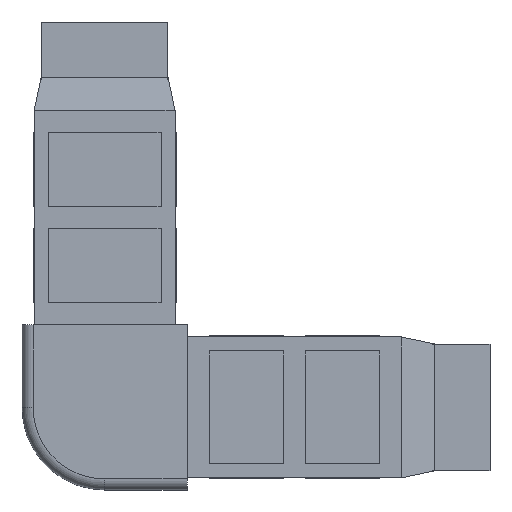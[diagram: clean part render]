
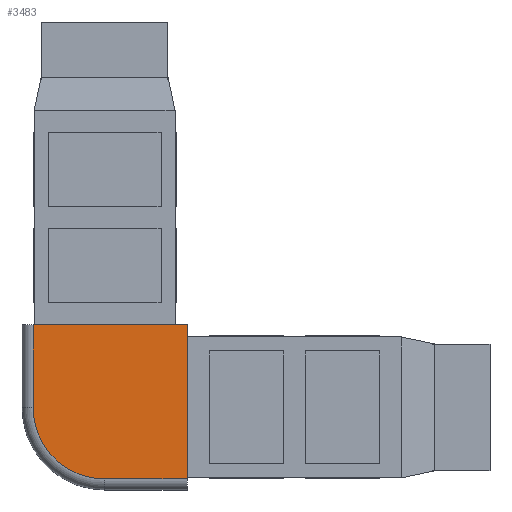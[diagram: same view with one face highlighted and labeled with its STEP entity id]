
A CAD part, left-side view. The second image highlights one B-rep face of the part: STEP entity #3483.
In plain terms, the highlighted planar face has unit normal (-1, 0, 0).
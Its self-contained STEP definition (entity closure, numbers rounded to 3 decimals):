
#73 = DIRECTION ( 'NONE',  ( 0., -1., 0. ) ) ;
#290 = EDGE_CURVE ( 'NONE', #1426, #1380, #1104, .T. ) ;
#402 = AXIS2_PLACEMENT_3D ( 'NONE', #661, #2796, #965 ) ;
#596 = CIRCLE ( 'NONE', #402, 13. ) ;
#661 = CARTESIAN_POINT ( 'NONE',  ( -15., 0., 0. ) ) ;
#775 = CARTESIAN_POINT ( 'NONE',  ( -15., 13., 15. ) ) ;
#905 = VERTEX_POINT ( 'NONE', #1385 ) ;
#937 = CARTESIAN_POINT ( 'NONE',  ( -15., -15., 15. ) ) ;
#965 = DIRECTION ( 'NONE',  ( 0., 1., 0. ) ) ;
#999 = CARTESIAN_POINT ( 'NONE',  ( -15., 13., 0. ) ) ;
#1001 = DIRECTION ( 'NONE',  ( 0., 1., 0. ) ) ;
#1065 = VECTOR ( 'NONE', #3535, 1000. ) ;
#1079 = VERTEX_POINT ( 'NONE', #1191 ) ;
#1104 = LINE ( 'NONE', #1878, #2633 ) ;
#1191 = CARTESIAN_POINT ( 'NONE',  ( -15., 0., -13. ) ) ;
#1244 = DIRECTION ( 'NONE',  ( 0., 0., -1. ) ) ;
#1380 = VERTEX_POINT ( 'NONE', #2688 ) ;
#1385 = CARTESIAN_POINT ( 'NONE',  ( -15., -15., -13. ) ) ;
#1426 = VERTEX_POINT ( 'NONE', #1666 ) ;
#1473 = ORIENTED_EDGE ( 'NONE', *, *, #1968, .F. ) ;
#1536 = AXIS2_PLACEMENT_3D ( 'NONE', #1908, #2838, #1001 ) ;
#1557 = EDGE_CURVE ( 'NONE', #1079, #905, #1987, .T. ) ;
#1595 = LINE ( 'NONE', #937, #3127 ) ;
#1646 = VERTEX_POINT ( 'NONE', #999 ) ;
#1658 = ORIENTED_EDGE ( 'NONE', *, *, #1557, .T. ) ;
#1666 = CARTESIAN_POINT ( 'NONE',  ( -15., 13., 15. ) ) ;
#1878 = CARTESIAN_POINT ( 'NONE',  ( -15., 15., 15. ) ) ;
#1908 = CARTESIAN_POINT ( 'NONE',  ( -15., 15., 15. ) ) ;
#1933 = ORIENTED_EDGE ( 'NONE', *, *, #290, .F. ) ;
#1967 = LINE ( 'NONE', #775, #1065 ) ;
#1968 = EDGE_CURVE ( 'NONE', #1380, #905, #1595, .T. ) ;
#1987 = LINE ( 'NONE', #3055, #3428 ) ;
#2044 = EDGE_CURVE ( 'NONE', #1646, #1079, #596, .T. ) ;
#2288 = EDGE_LOOP ( 'NONE', ( #1933, #3187, #3282, #1658, #1473 ) ) ;
#2327 = EDGE_CURVE ( 'NONE', #1426, #1646, #1967, .T. ) ;
#2633 = VECTOR ( 'NONE', #3714, 1000. ) ;
#2688 = CARTESIAN_POINT ( 'NONE',  ( -15., -15., 15. ) ) ;
#2796 = DIRECTION ( 'NONE',  ( -1., 0., 0. ) ) ;
#2838 = DIRECTION ( 'NONE',  ( 1., 0., 0. ) ) ;
#3055 = CARTESIAN_POINT ( 'NONE',  ( -15., -15., -13. ) ) ;
#3127 = VECTOR ( 'NONE', #1244, 1000. ) ;
#3187 = ORIENTED_EDGE ( 'NONE', *, *, #2327, .T. ) ;
#3282 = ORIENTED_EDGE ( 'NONE', *, *, #2044, .T. ) ;
#3428 = VECTOR ( 'NONE', #73, 1000. ) ;
#3440 = PLANE ( 'NONE',  #1536 ) ;
#3483 = ADVANCED_FACE ( 'NONE', ( #3915 ), #3440, .F. ) ;
#3535 = DIRECTION ( 'NONE',  ( 0., 0., -1. ) ) ;
#3714 = DIRECTION ( 'NONE',  ( 0., -1., 0. ) ) ;
#3915 = FACE_OUTER_BOUND ( 'NONE', #2288, .T. ) ;
